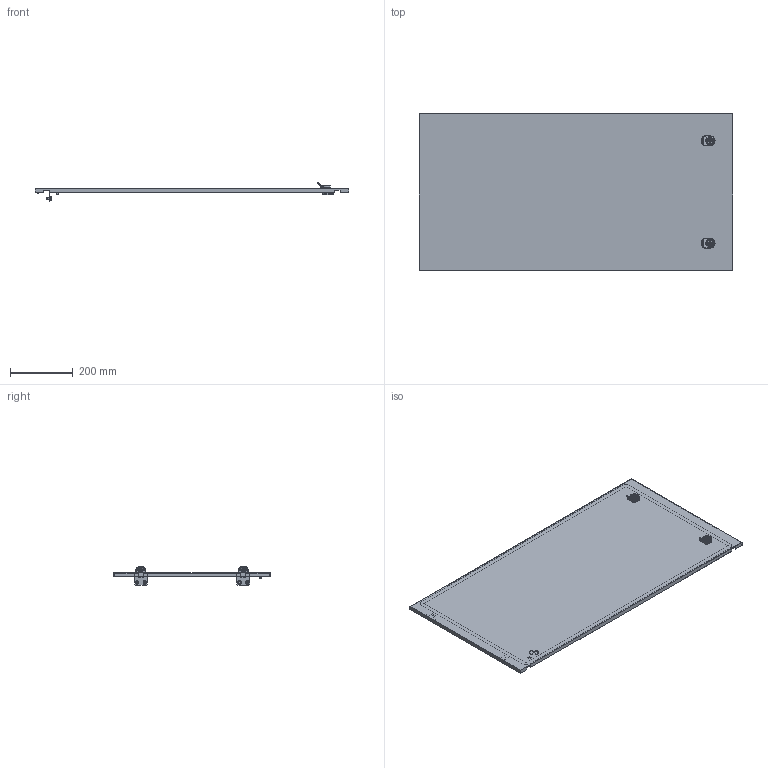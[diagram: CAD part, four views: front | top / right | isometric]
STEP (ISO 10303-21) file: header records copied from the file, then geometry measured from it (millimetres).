
FILE_DESCRIPTION (( 'STEP AP214' ), '1' );
FILE_NAME ('FO-00-ESD-050-100 Äâåðü ñåêöèîííàÿ âíåøíÿÿ 500õ1000 ìì.STEP', '2025-08-20T06:12:42', ( '' ), ( '' ), 'SwSTEP 2.0', 'SolidWorks 2023', '' );
FILE_SCHEMA (( 'AUTOMOTIVE_DESIGN' ));
Length unit declared in the file: millimetre
Products named in the file (4): Петля.STEP; FO-00-ESD-050-100 Дверь секционная внешняя 500х1000 мм; Дверь секционная внешняя 500х1000 мм.STEP; FO-00-ESD-050-100 Дверь секционная внешняя 500х1000 мм.STEP
Assembly tree (4 placements, depth 3):
  FO-00-ESD-050-100 Дверь секционная внешняя 500х1000 мм
    FO-00-ESD-050-100 Дверь секционная внешняя 500х1000 мм.STEP
      Дверь секционная внешняя 500х1000 мм.STEP
      Петля.STEP  x2
Bounding box: 995 x 496 x 57.25 mm (x, y, z)
Volume: 1199584.1 mm3; surface area: 1097005.2 mm2
Topology: 3 solids, 12 shells, 703 faces, 1803 edges, 1166 vertices
Faces by surface type: plane 343, cylinder 268, torus 34, bspline 30, cone 28
Entity records: 20618 total; most frequent: CARTESIAN_POINT 5770, ORIENTED_EDGE 3096, DIRECTION 3062, EDGE_CURVE 1548, AXIS2_PLACEMENT_3D 1050, VERTEX_POINT 1004, VECTOR 962, LINE 962
